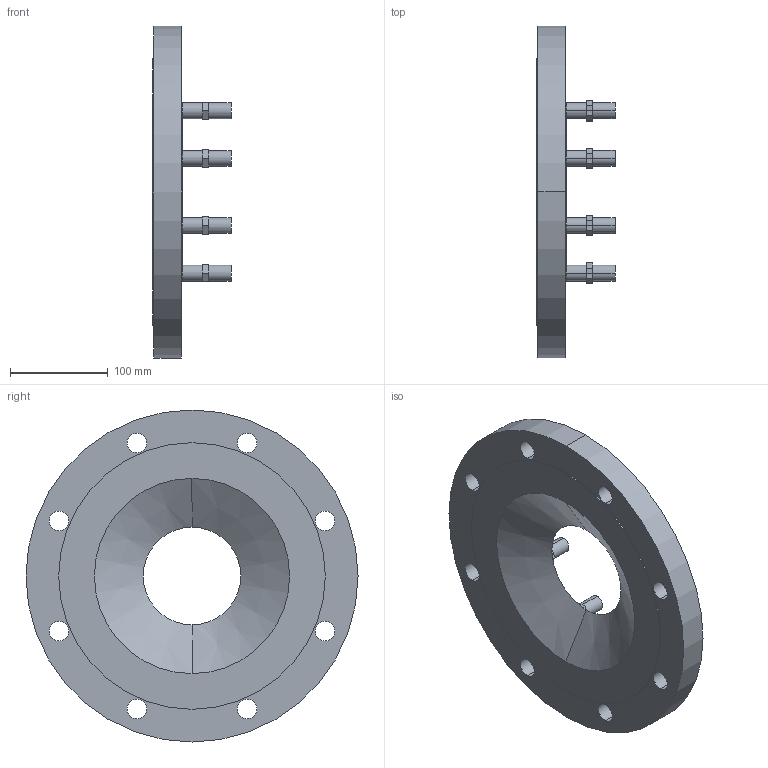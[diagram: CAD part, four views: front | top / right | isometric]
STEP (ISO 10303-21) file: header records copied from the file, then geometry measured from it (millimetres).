
FILE_DESCRIPTION(('STEP AP214'),'1');
FILE_NAME('S:/EK/USER/CAT6/3DHomepage_27-04-2012/VDI-Rohrsysteme_und_Stahlrohre/0802_(8110)/0802_PN10_DN200_DN100.STP','2013-01-25T08:10:52',(' '),(' '),'Spatial InterOp 3D',' ',' ');
FILE_SCHEMA(('automotive_design'));
Length unit declared in the file: millimetre
Products named in the file (18): 3D-Objekt
Bounding box: 80 x 340 x 340 mm (x, y, z)
Volume: 2095964.4 mm3; surface area: 289148 mm2
Topology: 18 solids, 18 shells, 127 faces, 270 edges, 180 vertices
Faces by surface type: plane 85, cylinder 40, cone 2
Entity records: 4900 total; most frequent: DIRECTION 644, CARTESIAN_POINT 595, ORIENTED_EDGE 540, EDGE_CURVE 270, AXIS2_PLACEMENT_3D 229, LINE 186, VECTOR 186, VERTEX_POINT 180
